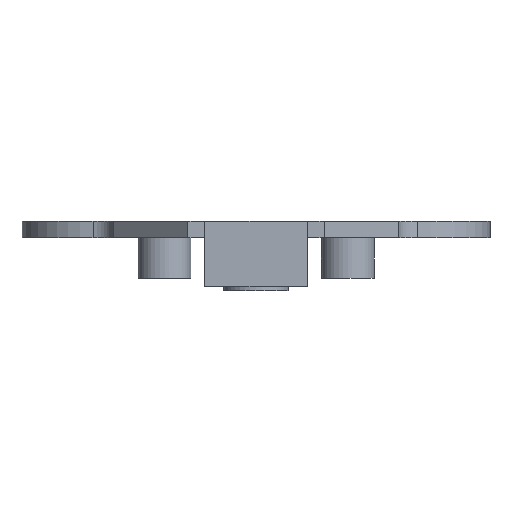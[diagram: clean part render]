
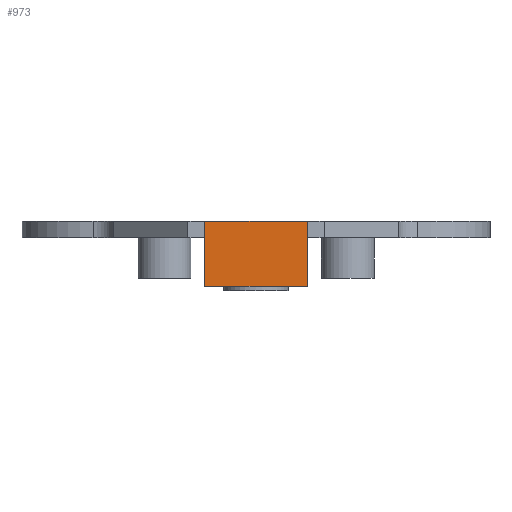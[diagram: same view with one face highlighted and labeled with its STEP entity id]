
A CAD part, front view. The second image highlights one B-rep face of the part: STEP entity #973.
In plain terms, the highlighted planar face has unit normal (0, -1, 0).
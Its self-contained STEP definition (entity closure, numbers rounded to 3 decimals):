
#106 = PLANE ( 'NONE',  #1226 ) ;
#157 = ORIENTED_EDGE ( 'NONE', *, *, #1393, .F. ) ;
#255 = CARTESIAN_POINT ( 'NONE',  ( -17.089, -67.228, 148. ) ) ;
#299 = CARTESIAN_POINT ( 'NONE',  ( -29.689, -67.228, 148. ) ) ;
#377 = EDGE_CURVE ( 'NONE', #1399, #1120, #1126, .T. ) ;
#441 = EDGE_CURVE ( 'NONE', #1088, #1024, #866, .T. ) ;
#537 = DIRECTION ( 'NONE',  ( 1., 0., 0. ) ) ;
#554 = VECTOR ( 'NONE', #1405, 1000. ) ;
#732 = DIRECTION ( 'NONE',  ( 1., 0., 0. ) ) ;
#753 = VECTOR ( 'NONE', #732, 1000. ) ;
#823 = CARTESIAN_POINT ( 'NONE',  ( -29.689, -67.228, 140. ) ) ;
#866 = LINE ( 'NONE', #299, #753 ) ;
#948 = CARTESIAN_POINT ( 'NONE',  ( -29.689, -67.228, 140. ) ) ;
#966 = DIRECTION ( 'NONE',  ( 0., 0., 1. ) ) ;
#973 = ADVANCED_FACE ( 'NONE', ( #1622 ), #106, .T. ) ;
#1024 = VERTEX_POINT ( 'NONE', #255 ) ;
#1088 = VERTEX_POINT ( 'NONE', #1611 ) ;
#1094 = CARTESIAN_POINT ( 'NONE',  ( -29.689, -67.228, 140. ) ) ;
#1120 = VERTEX_POINT ( 'NONE', #1457 ) ;
#1126 = LINE ( 'NONE', #823, #554 ) ;
#1135 = ORIENTED_EDGE ( 'NONE', *, *, #377, .T. ) ;
#1226 = AXIS2_PLACEMENT_3D ( 'NONE', #1240, #1263, #537 ) ;
#1240 = CARTESIAN_POINT ( 'NONE',  ( -29.689, -67.228, 140. ) ) ;
#1263 = DIRECTION ( 'NONE',  ( 0., -1., 0. ) ) ;
#1286 = LINE ( 'NONE', #1796, #1661 ) ;
#1324 = ORIENTED_EDGE ( 'NONE', *, *, #441, .F. ) ;
#1380 = DIRECTION ( 'NONE',  ( 0., 0., 1. ) ) ;
#1393 = EDGE_CURVE ( 'NONE', #1399, #1088, #1507, .T. ) ;
#1399 = VERTEX_POINT ( 'NONE', #1094 ) ;
#1405 = DIRECTION ( 'NONE',  ( 1., 0., 0. ) ) ;
#1406 = VECTOR ( 'NONE', #1380, 1000. ) ;
#1443 = EDGE_CURVE ( 'NONE', #1120, #1024, #1286, .T. ) ;
#1457 = CARTESIAN_POINT ( 'NONE',  ( -17.089, -67.228, 140. ) ) ;
#1507 = LINE ( 'NONE', #948, #1406 ) ;
#1611 = CARTESIAN_POINT ( 'NONE',  ( -29.689, -67.228, 148. ) ) ;
#1622 = FACE_OUTER_BOUND ( 'NONE', #1668, .T. ) ;
#1661 = VECTOR ( 'NONE', #966, 1000. ) ;
#1668 = EDGE_LOOP ( 'NONE', ( #1324, #157, #1135, #1788 ) ) ;
#1788 = ORIENTED_EDGE ( 'NONE', *, *, #1443, .T. ) ;
#1796 = CARTESIAN_POINT ( 'NONE',  ( -17.089, -67.228, 140. ) ) ;
